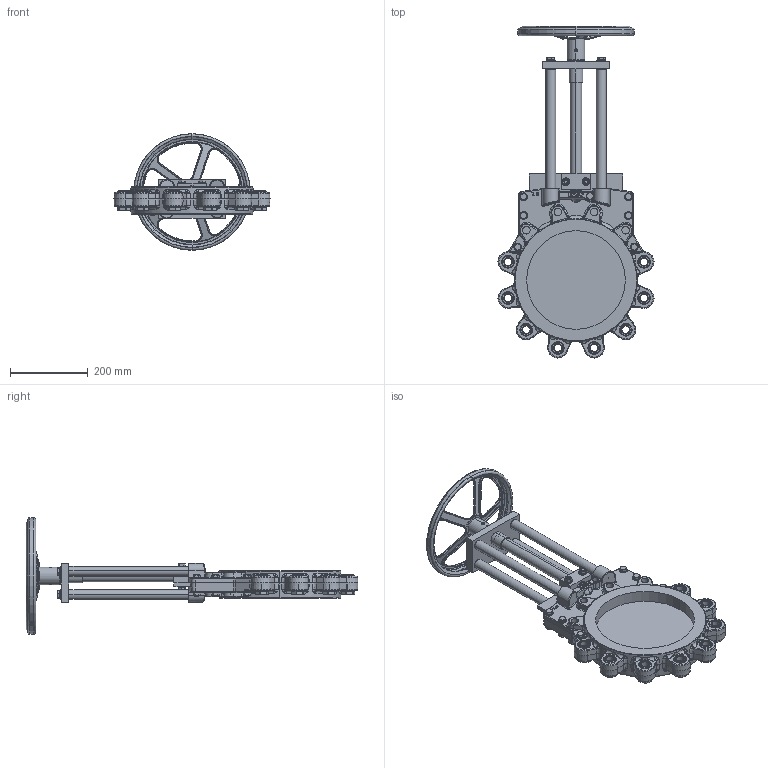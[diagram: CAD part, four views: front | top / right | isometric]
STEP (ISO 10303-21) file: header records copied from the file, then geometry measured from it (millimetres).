
FILE_DESCRIPTION (( 'STEP AP214' ), '1' );
FILE_NAME ('VLA DN 0250.STEP', '2022-09-20T06:57:48', ( '' ), ( '' ), 'SwSTEP 2.0', 'SolidWorks 2021', '' );
FILE_SCHEMA (( 'AUTOMOTIVE_DESIGN' ));
Length unit declared in the file: millimetre
Products named in the file (1): VLA DN 0250
Bounding box: 401.57 x 854.27 x 300 mm (x, y, z)
Volume: 6079147.8 mm3; surface area: 905004 mm2
Topology: 1 solids, 34 shells, 2522 faces, 5971 edges, 3486 vertices
Faces by surface type: plane 729, cylinder 621, cone 479, bspline 452, torus 235, sphere 6
Entity records: 123304 total; most frequent: CARTESIAN_POINT 41230, ORIENTED_EDGE 11646, DIRECTION 10988, EDGE_CURVE 5823, AXIS2_PLACEMENT_3D 4526, VERTEX_POINT 3486, EDGE_LOOP 2725, UNCERTAINTY_MEASURE_WITH_UNIT 2525
